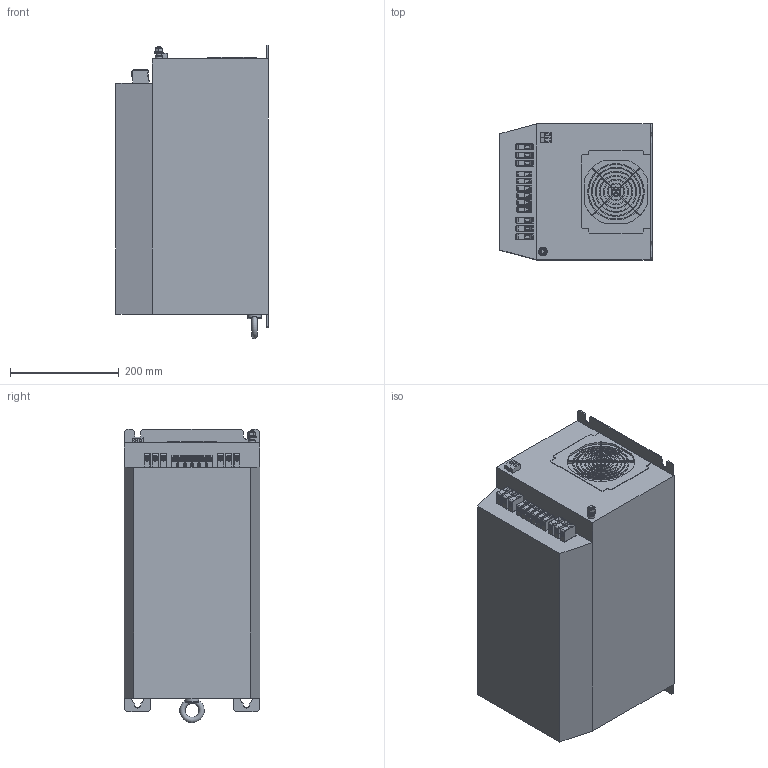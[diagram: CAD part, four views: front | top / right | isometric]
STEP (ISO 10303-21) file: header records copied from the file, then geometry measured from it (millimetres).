
FILE_DESCRIPTION((''),'2;1');
FILE_NAME('P:\Construction\Filter_Marketing\FN\FN341xHV\FN341xHV-16...24-33\FN341xHV-16...24-33.stp','2013-11-29T09:20:33',('erika.jenzer'),(''),'Autodesk Inventor 2013','Autodesk Inventor 2013','');
FILE_SCHEMA(('AUTOMOTIVE_DESIGN { 1 0 10303 214 1 1 1 1 }'));
Length unit declared in the file: millimetre
Products named in the file (1): Bauteil73
Bounding box: 280 x 250 x 539.92 mm (x, y, z)
Volume: 31672569.5 mm3; surface area: 696320 mm2
Topology: 1 solids, 63 shells, 1847 faces, 4454 edges, 2734 vertices
Faces by surface type: plane 1313, cylinder 364, torus 127, sphere 36, cone 7
Full cylindrical faces by diameter (mm): 4 x2, 4.5 x6, 5.1 x6, 7 x2, 7.5 x2, 8 x3, 8.4 x1, 8.5 x6, 10 x7, 10.5 x1, 12 x1, 12.65 x1, 16 x1, 25 x1
Entity records: 54316 total; most frequent: CARTESIAN_POINT 9298, DIRECTION 8958, ORIENTED_EDGE 8664, EDGE_CURVE 4332, VECTOR 3310, LINE 3310, AXIS2_PLACEMENT_3D 2824, VERTEX_POINT 2718
